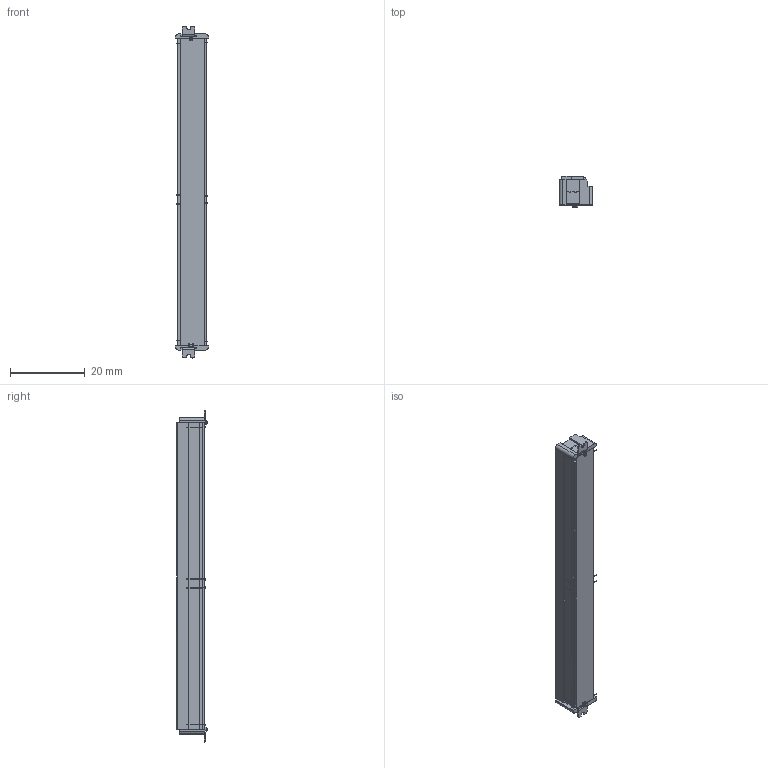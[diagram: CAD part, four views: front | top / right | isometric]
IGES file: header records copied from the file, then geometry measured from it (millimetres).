
Start section: SolidWorks IGES file using analytic representation for surfaces
Global section: file name: 6HD:\K0088361--劉鳳蘭\S78B\S78B-X2.IGS; native system: SolidWorks 2010; preprocessor: SolidWorks 2010; author: k0015749; date: 121221.112933; units: millimetre
Bounding box: 8.9 x 8.35 x 88.88 mm (x, y, z)
Surface area: 3408.2 mm2 (no closed solid volume)
Topology: 0 solids, 0 shells, 474 faces, 3109 edges, 3109 vertices
Faces by surface type: bspline 380, revolution 94
